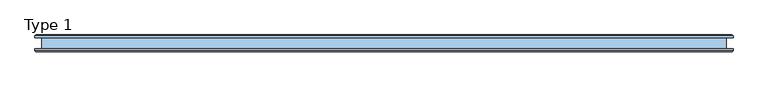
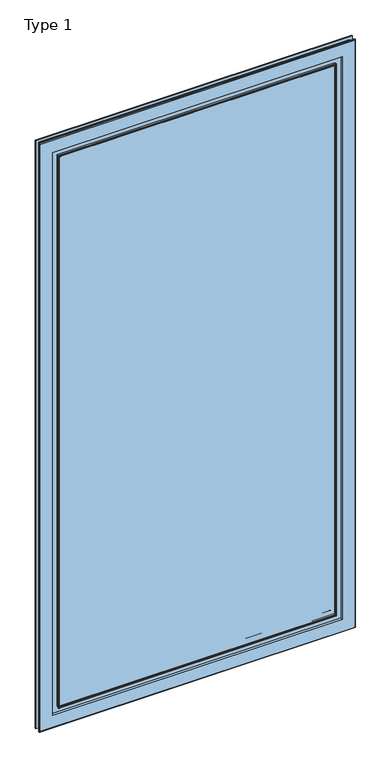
"""IFC4 building model written with IfcOpenShell, lengths in millimetres: window geometry, ETEM_E50_Quadruple_Fly Screen_Lift_Sliding : Type 1."""

import ifcopenshell
import ifcopenshell.guid

model = None  # the IFC model being written
_history = None  # IfcOwnerHistory: only IFC2X3 demands one
_inside = {}  # id of a spatial element -> (the spatial element, [elements in it])
_under = {}  # id of a project, library or spatial element -> (it, [spatial elements below it])
_declared = {}  # id of a project -> (the project, [libraries it declares])
_typed = {}  # id of a type object -> (the type object, [elements of that type])
_made_of = {}  # id of a material, layer set ... -> (it, [elements and type objects made of it])


def new_model(schema):
    """Start an empty IFC model of exactly this schema.

    Asked for "IFC4X3", IfcOpenShell would pick the latest addendum, in which some entities
    have other attributes; the version numbers below select the first issue.
    IFC2X3 requires an IfcOwnerHistory on every rooted entity: one is made here for all.
    """
    global model, _history
    if schema == "IFC4X3":
        model = ifcopenshell.file(schema_version=(4, 3, 0, 0))
    else:
        model = ifcopenshell.file(schema=schema)
    _inside.clear()
    _under.clear()
    _declared.clear()
    _typed.clear()
    _made_of.clear()
    _history = None
    if model.schema == "IFC2X3":
        org = make("IfcOrganization", Name="unknown")
        user = make(
            "IfcPersonAndOrganization",
            ThePerson=make("IfcPerson", FamilyName="unknown"),
            TheOrganization=org,
        )
        app = make(
            "IfcApplication",
            ApplicationDeveloper=org,
            Version="unknown",
            ApplicationFullName="unknown",
            ApplicationIdentifier="unknown",
        )
        _history = make(
            "IfcOwnerHistory",
            OwningUser=user,
            OwningApplication=app,
            ChangeAction="ADDED",
            CreationDate=0,
        )
    return model


def make(cls, **values):
    """One entity of the class cls with the attributes given. An attribute that is None is left unset."""
    return model.create_entity(
        cls, **{name: value for name, value in values.items() if value is not None}
    )


def rooted(cls, **values):
    """An entity with a GlobalId (a new one), such as an element, a storey or a relation."""
    return make(cls, GlobalId=ifcopenshell.guid.new(), OwnerHistory=_history, **values)


def si_unit(unit_type, name, prefix=None):
    """IfcSIUnit, for example si_unit("LENGTHUNIT", "METRE", prefix="MILLI")."""
    return make("IfcSIUnit", UnitType=unit_type, Prefix=prefix, Name=name)


def assignment(units):
    """IfcUnitAssignment: the units of a project."""
    return None if units is None else make("IfcUnitAssignment", Units=units)


def point(xyz):
    """IfcCartesianPoint."""
    return None if xyz is None else make("IfcCartesianPoint", Coordinates=xyz)


def direction(xyz):
    """IfcDirection."""
    return None if xyz is None else make("IfcDirection", DirectionRatios=xyz)


def frame(location, z_axis=None, x_axis=None):
    """IfcAxis2Placement3D, a coordinate frame: its origin and axes. An axis left out is left unset."""
    return make(
        "IfcAxis2Placement3D",
        Location=point(location),
        Axis=direction(z_axis),
        RefDirection=direction(x_axis),
    )


def origin():
    """The frame at (0, 0, 0) with its axes left unset."""
    return frame((0.0, 0.0, 0.0))


def place(relative_to, where):
    """IfcLocalPlacement: puts the frame where relative to a parent placement (None: the world)."""
    return make(
        "IfcLocalPlacement", PlacementRelTo=relative_to, RelativePlacement=where
    )


def context(
    kind, dimensions, precision=None, world=None, true_north=None, identifier=None
):
    """IfcGeometricRepresentationContext, for example the 3D "Model" context."""
    return make(
        "IfcGeometricRepresentationContext",
        ContextIdentifier=identifier,
        ContextType=kind,
        CoordinateSpaceDimension=dimensions,
        Precision=precision,
        WorldCoordinateSystem=world,
        TrueNorth=true_north,
    )


def project(units=None, contexts=None):
    """IfcProject with its units and contexts."""
    return rooted(
        "IfcProject",
        Name="project",
        RepresentationContexts=contexts,
        UnitsInContext=assignment(units),
    )


def spatial(cls, under=None, at=None, **own):
    """A site, building, storey or space (cls), placed at a placement, below another one or the project."""
    s = rooted(cls, ObjectPlacement=at, **own)
    if under is not None:
        _under.setdefault(under.id(), (under, []))[1].append(s)
    return s


def polyline(points):
    """IfcPolyline through the points."""
    return make("IfcPolyline", Points=[point(p) for p in points])


def ellipse_curve(where, semi_axis1, semi_axis2):
    """IfcEllipse in the frame where."""
    return make(
        "IfcEllipse", Position=where, SemiAxis1=semi_axis1, SemiAxis2=semi_axis2
    )


def outline(outer, holes=None, kind="AREA"):
    """IfcArbitraryClosedProfileDef: a profile drawn as a closed curve; with holes, ...WithVoids."""
    if holes is None:
        return make("IfcArbitraryClosedProfileDef", ProfileType=kind, OuterCurve=outer)
    return make(
        "IfcArbitraryProfileDefWithVoids",
        ProfileType=kind,
        OuterCurve=outer,
        InnerCurves=holes,
    )


def extrude(swept, where, along, depth):
    """IfcExtrudedAreaSolid: the profile swept, set in the frame where, extruded along a direction by depth."""
    return make(
        "IfcExtrudedAreaSolid",
        SweptArea=swept,
        Position=where,
        ExtrudedDirection=direction(along),
        Depth=depth,
    )


def shape(context_of_items, identifier, shape_type, items):
    """IfcShapeRepresentation: the items that make up one representation, for example the "Body"."""
    return make(
        "IfcShapeRepresentation",
        ContextOfItems=context_of_items,
        RepresentationIdentifier=identifier,
        RepresentationType=shape_type,
        Items=items,
    )


def source(mapping_origin, context_of_items, identifier, shape_type, items):
    """IfcRepresentationMap: a shape defined once, which mapped items show again and again."""
    return make(
        "IfcRepresentationMap",
        MappingOrigin=mapping_origin,
        MappedRepresentation=shape(context_of_items, identifier, shape_type, items),
    )


def transform(
    local_origin,
    x_axis=None,
    y_axis=None,
    z_axis=None,
    scale=None,
    scale2=None,
    scale3=None,
    uniform=True,
):
    """IfcCartesianTransformationOperator3D, or its non-uniform kind. x_axis, y_axis, z_axis: its Axis1, 2, 3."""
    if uniform:
        return make(
            "IfcCartesianTransformationOperator3D",
            Axis1=direction(x_axis),
            Axis2=direction(y_axis),
            LocalOrigin=point(local_origin),
            Scale=scale,
            Axis3=direction(z_axis),
        )
    return make(
        "IfcCartesianTransformationOperator3DnonUniform",
        Axis1=direction(x_axis),
        Axis2=direction(y_axis),
        LocalOrigin=point(local_origin),
        Scale=scale,
        Axis3=direction(z_axis),
        Scale2=scale2,
        Scale3=scale3,
    )


def mapped(mapping_source, mapping_target):
    """IfcMappedItem: shows the shape of a source again, moved by a transform."""
    return make(
        "IfcMappedItem", MappingSource=mapping_source, MappingTarget=mapping_target
    )


def made_of(thing, what):
    """Note that an element or type object is made of a material, layer set ...; save() writes the relation."""
    if what is not None:
        _made_of.setdefault(what.id(), (what, []))[1].append(thing)
    return thing


def element(
    cls,
    number,
    at=None,
    inside=None,
    cuts=None,
    type_object=None,
    material=None,
    context=None,
    identifier="Body",
    shape_type=None,
    held_by="IfcProductDefinitionShape",
    body=None,
    shapes=None,
    **own,
):
    """One element of the class cls, such as IfcWall. Its Tag is "e" and its number.

    at: its placement. inside: the storey or other place that contains it. cuts: it is an
    opening in that element (IfcRelVoidsElement). A single representation is given by context,
    identifier, shape_type and body (its items); several are given by shapes. held_by: the class
    of the entity that holds the representations. save() writes the other relations.
    """
    e = rooted(cls, Tag="e%d" % number, ObjectPlacement=at, **own)
    if body is not None:
        shapes = [shape(context, identifier, shape_type, body)]
    if shapes is not None:
        e.Representation = make(held_by, Representations=shapes)
    if inside is not None:
        _inside.setdefault(inside.id(), (inside, []))[1].append(e)
    if cuts is not None:
        rooted(
            "IfcRelVoidsElement", RelatingBuildingElement=cuts, RelatedOpeningElement=e
        )
    if type_object is not None:
        _typed.setdefault(type_object.id(), (type_object, []))[1].append(e)
    return made_of(e, material)


def aggregate(whole, parts):
    """IfcRelAggregates: a whole, such as a stair, and the parts it consists of."""
    return rooted("IfcRelAggregates", RelatingObject=whole, RelatedObjects=parts)


def save(model, path):
    """Write the relations noted so far, then the file.

    IfcRelAggregates (storeys below a building ...), IfcRelContainedInSpatialStructure (elements
    in a storey), IfcRelDefinesByType, IfcRelAssociatesMaterial and IfcRelDeclares: one each for
    every whole, place, type object, material and project.
    """
    for whole, parts in _under.values():
        aggregate(whole, parts)
    for where, things in _inside.values():
        rooted(
            "IfcRelContainedInSpatialStructure",
            RelatedElements=things,
            RelatingStructure=where,
        )
    for kind, things in _typed.values():
        rooted("IfcRelDefinesByType", RelatedObjects=things, RelatingType=kind)
    for what, things in _made_of.values():
        rooted("IfcRelAssociatesMaterial", RelatedObjects=things, RelatingMaterial=what)
    for by, libraries in _declared.values():
        rooted("IfcRelDeclares", RelatingContext=by, RelatedDefinitions=libraries)
    model.write(path)


def plane_surface(at):
    """IfcPlane: the flat surface through the origin of the frame at, square to its z axis."""
    return make("IfcPlane", Position=at)


def cylinder_surface(at, radius):
    """IfcCylindricalSurface: all points at the distance radius from the z axis of the frame at."""
    return make("IfcCylindricalSurface", Position=at, Radius=radius)


def revolved_surface(curve, axis_point, axis_direction):
    """IfcSurfaceOfRevolution: the curve turned about the line through axis_point along axis_direction."""
    return make(
        "IfcSurfaceOfRevolution",
        SweptCurve=make("IfcArbitraryOpenProfileDef", ProfileType="CURVE", Curve=curve),
        AxisPosition=make("IfcAxis1Placement", Location=point(axis_point), Axis=direction(axis_direction)),
    )


def advanced_brep(points, edges, surfaces, faces):
    """IfcAdvancedBrep: a solid bounded by faces that lie on surfaces and meet in shared edges.

    An edge is (start, end): straight between two places in points (the first is 0);
    or (start, end, curve); or (start, end, curve, False) where it runs against its curve.
    A face is (place in surfaces, loops), or (place, loops, False) where it looks against
    its surface's normal. A loop lists edges by number (the first is 1), with a minus sign
    where the edge is run from its end to its start. The first loop is the outer one.
    """
    corners = [point(p) for p in points]
    vertices = [make("IfcVertexPoint", VertexGeometry=c) for c in corners]
    made = []
    for start, end, *more in edges:
        made.append(
            make(
                "IfcEdgeCurve",
                EdgeStart=vertices[start],
                EdgeEnd=vertices[end],
                EdgeGeometry=more[0] if more else make("IfcPolyline", Points=[corners[start], corners[end]]),
                SameSense=more[1] if len(more) > 1 else True,
            )
        )
    hull = []
    for where, loops, *sense in faces:
        bounds = []
        for j, loop in enumerate(loops):
            ring = [make("IfcOrientedEdge", EdgeElement=made[abs(k) - 1], Orientation=k > 0) for k in loop]
            bounds.append(
                make(
                    "IfcFaceOuterBound" if j == 0 else "IfcFaceBound",
                    Bound=make("IfcEdgeLoop", EdgeList=ring),
                    Orientation=True,
                )
            )
        hull.append(make("IfcAdvancedFace", Bounds=bounds, FaceSurface=surfaces[where], SameSense=sense[0] if sense else True))
    return make("IfcAdvancedBrep", Outer=make("IfcClosedShell", CfsFaces=hull))


def type_1_fd5323af(model_context):
    return source(origin(), model_context, "Body", "SolidModel", [
        advanced_brep(
        [(1148.6, 74.8, 2092.9), (1148.6, 71.8, 2092.9), (1148.6, 71.8, 107.1), (1148.6, 74.8, 107.1), (1146.8, 71.8, 105.3), (2094.699965, 71.8, 105.3), (2094.699965, 71.8, 2094.7), (1146.8, 71.8, 2094.7), (2092.899965, 71.8, 2092.9), (2092.899965, 71.8, 107.1), (2092.899965, 74.8, 107.1), (2092.899965, 74.8, 2092.9), (1156.0, 74.8, 2085.5), (2085.499965, 74.8, 2085.5), (2085.499965, 74.8, 114.5), (1156.0, 74.8, 114.5), (1146.8543214, 72.9975359, 2094.6456786), (1146.8543214, 72.9975359, 105.3543214), (1147.4, 73.5, 2094.1), (1147.4, 73.5, 105.9), (2094.6456436, 72.9975359, 105.3543214), (1147.4, 80.1, 2094.1), (1147.4, 80.1, 105.9), (2094.099965, 73.5, 105.9), (1127.2, 80.1, 85.7), (2114.299965, 80.1, 85.7), (2114.299965, 80.1, 2114.3), (1127.2, 80.1, 2114.3), (2094.099965, 80.1, 2094.1), (2094.099965, 80.1, 105.9), (1127.2, 71.8, 2114.3), (1127.2, 71.8, 85.7), (1084.0, 71.8, 42.5), (2157.499965, 71.8, 42.5), (2157.499965, 71.8, 2157.5), (1084.0, 71.8, 2157.5), (2114.299965, 71.8, 2114.3), (2114.299965, 71.8, 85.7), (1081.0, 73.1542487, 2160.5), (1081.0, 73.1542487, 39.5), (1081.0, 76.3, 2160.5), (1081.0, 76.3, 39.5), (2160.499965, 73.1542487, 39.5), (2160.499965, 76.3, 2160.5), (2160.499965, 76.3, 39.5), (1091.3, 76.3, 49.8), (2150.199965, 76.3, 49.8), (2150.199965, 76.3, 2150.2), (1091.3, 76.3, 2150.2), (1091.3, 93.3, 2150.2), (1091.3, 93.3, 49.8), (1081.0, 93.3, 39.5), (2160.499965, 93.3, 39.5), (2160.499965, 93.3, 2160.5), (1081.0, 93.3, 2160.5), (2150.199965, 93.3, 2150.2), (2150.199965, 93.3, 49.8), (1081.0, 96.4457513, 2160.5), (1081.0, 96.4457513, 39.5), (1084.0, 97.8, 2157.5), (1084.0, 97.8, 42.5), (2160.499965, 96.4457513, 39.5), (2157.499965, 97.8, 2157.5), (2157.499965, 97.8, 42.5), (1127.2, 97.8, 85.7), (2114.299965, 97.8, 85.7), (2114.299965, 97.8, 2114.3), (1127.2, 97.8, 2114.3), (1127.2, 89.5, 2114.3), (1127.2, 89.5, 85.7), (2114.299965, 89.5, 2114.3), (2114.299965, 89.5, 85.7), (1153.6, 89.5, 112.1), (2087.899965, 89.5, 112.1), (2087.899965, 89.5, 2087.9), (1153.6, 89.5, 2087.9), (1154.8, 90.7, 2086.7), (1154.8, 90.7, 113.3), (1154.8, 93.8, 2086.7), (1154.8, 93.8, 113.3), (2086.699965, 90.7, 113.3), (1152.4941176, 96.5560566, 2089.0058824), (1152.4941176, 96.5560566, 110.9941176), (2086.699965, 93.8, 113.3), (1152.7058823, 97.7372237, 2088.7941177), (1152.7058823, 97.7372237, 111.2058823), (2089.0058474, 96.5560566, 110.9941176), (1156.0, 93.8, 2085.5), (1156.0, 93.8, 114.5), (2088.7940826, 97.7372237, 111.2058823), (2085.499965, 93.8, 114.5), (2094.6456436, 72.9975359, 2094.6456786), (2094.099965, 73.5, 2094.1), (2160.499965, 73.1542487, 2160.5), (2160.499965, 96.4457513, 2160.5), (2086.699965, 90.7, 2086.7), (2086.699965, 93.8, 2086.7), (2089.0058474, 96.5560566, 2089.0058824), (2088.7940826, 97.7372237, 2088.7941177), (2085.499965, 93.8, 2085.5)],
        [
            (0, 1),
            (1, 2),
            (2, 3),
            (3, 0),
            (4, 5),
            (5, 6),
            (6, 7),
            (7, 4),
            (1, 8),
            (8, 9),
            (9, 2),
            (9, 10),
            (10, 3),
            (10, 11),
            (11, 0),
            (12, 13),
            (13, 14),
            (14, 15),
            (15, 12),
            (7, 16, ellipse_curve(frame((1146.8, 72.4, 2094.7), z_axis=(-0.7071067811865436, 0.0, -0.7071067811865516), x_axis=(-0.7071067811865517, 0.0, 0.7071067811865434)), 0.8485281, 0.6)),
            (16, 17),
            (17, 4, ellipse_curve(frame((1146.8, 72.4, 105.3), z_axis=(-0.7071067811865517, 0.0, 0.7071067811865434), x_axis=(0.7071067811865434, 0.0, 0.7071067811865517)), 0.8485281, 0.6)),
            (16, 18, ellipse_curve(frame((1146.9, 73.5, 2094.6), z_axis=(0.7071067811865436, 0.0, 0.7071067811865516), x_axis=(0.7071067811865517, 0.0, -0.7071067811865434)), 0.7071068, 0.5)),
            (18, 19),
            (19, 17, ellipse_curve(frame((1146.9, 73.5, 105.4), z_axis=(0.7071067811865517, 0.0, -0.7071067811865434), x_axis=(-0.7071067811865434, 0.0, -0.7071067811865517)), 0.7071068, 0.5)),
            (17, 20),
            (20, 5, ellipse_curve(frame((2094.699965, 72.4, 105.3), z_axis=(-0.7071067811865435, 0.0, -0.7071067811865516), x_axis=(-0.7071067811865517, 0.0, 0.7071067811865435)), 0.8485281, 0.6)),
            (18, 21),
            (21, 22),
            (22, 19),
            (19, 23),
            (23, 20, ellipse_curve(frame((2094.599965, 73.5, 105.4), z_axis=(0.7071067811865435, 0.0, 0.7071067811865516), x_axis=(0.7071067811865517, 0.0, -0.7071067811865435)), 0.7071068, 0.5)),
            (24, 25),
            (25, 26),
            (26, 27),
            (27, 24),
            (21, 28),
            (28, 29),
            (29, 22),
            (29, 23),
            (27, 30),
            (30, 31),
            (31, 24),
            (32, 33),
            (33, 34),
            (34, 35),
            (35, 32),
            (30, 36),
            (36, 37),
            (37, 31),
            (37, 25),
            (35, 38, ellipse_curve(frame((1084.0, 75.8, 2157.5), z_axis=(-0.7071067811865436, 0.0, -0.7071067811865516), x_axis=(-0.7071067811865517, 0.0, 0.7071067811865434)), 5.6568542, 4.0)),
            (38, 39),
            (39, 32, ellipse_curve(frame((1084.0, 75.8, 42.5), z_axis=(-0.7071067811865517, 0.0, 0.7071067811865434), x_axis=(0.7071067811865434, 0.0, 0.7071067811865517)), 5.6568542, 4.0)),
            (38, 40),
            (40, 41),
            (41, 39),
            (39, 42),
            (42, 33, ellipse_curve(frame((2157.499965, 75.8, 42.5), z_axis=(-0.7071067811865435, 0.0, -0.7071067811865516), x_axis=(-0.7071067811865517, 0.0, 0.7071067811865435)), 5.6568542, 4.0)),
            (40, 43),
            (43, 44),
            (44, 41),
            (45, 46),
            (46, 47),
            (47, 48),
            (48, 45),
            (44, 42),
            (48, 49),
            (49, 50),
            (50, 45),
            (51, 52),
            (52, 53),
            (53, 54),
            (54, 51),
            (49, 55),
            (55, 56),
            (56, 50),
            (56, 46),
            (54, 57),
            (57, 58),
            (58, 51),
            (57, 59, ellipse_curve(frame((1084.0, 93.8, 2157.5), z_axis=(-0.7071067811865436, 0.0, -0.7071067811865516), x_axis=(-0.7071067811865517, 0.0, 0.7071067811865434)), 5.6568542, 4.0)),
            (59, 60),
            (60, 58, ellipse_curve(frame((1084.0, 93.8, 42.5), z_axis=(-0.7071067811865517, 0.0, 0.7071067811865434), x_axis=(0.7071067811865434, 0.0, 0.7071067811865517)), 5.6568542, 4.0)),
            (58, 61),
            (61, 52),
            (59, 62),
            (62, 63),
            (63, 60),
            (64, 65),
            (65, 66),
            (66, 67),
            (67, 64),
            (63, 61, ellipse_curve(frame((2157.499965, 93.8, 42.5), z_axis=(-0.7071067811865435, 0.0, -0.7071067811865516), x_axis=(-0.7071067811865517, 0.0, 0.7071067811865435)), 5.6568542, 4.0)),
            (67, 68),
            (68, 69),
            (69, 64),
            (68, 70),
            (70, 71),
            (71, 69),
            (72, 73),
            (73, 74),
            (74, 75),
            (75, 72),
            (71, 65),
            (75, 76, ellipse_curve(frame((1153.6, 90.7, 2087.9), z_axis=(0.7071067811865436, 0.0, 0.7071067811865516), x_axis=(0.7071067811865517, 0.0, -0.7071067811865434)), 1.6970563, 1.2)),
            (76, 77),
            (77, 72, ellipse_curve(frame((1153.6, 90.7, 112.1), z_axis=(0.7071067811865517, 0.0, -0.7071067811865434), x_axis=(-0.7071067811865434, 0.0, -0.7071067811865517)), 1.6970563, 1.2)),
            (76, 78),
            (78, 79),
            (79, 77),
            (77, 80),
            (80, 73, ellipse_curve(frame((2087.899965, 90.7, 112.1), z_axis=(0.7071067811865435, 0.0, 0.7071067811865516), x_axis=(0.7071067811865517, 0.0, -0.7071067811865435)), 1.6970563, 1.2)),
            (78, 81, ellipse_curve(frame((1152.0, 93.8, 2089.5), z_axis=(0.7071067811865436, 0.0, 0.7071067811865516), x_axis=(0.7071067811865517, 0.0, -0.7071067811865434)), 3.959798, 2.8)),
            (81, 82),
            (82, 79, ellipse_curve(frame((1152.0, 93.8, 110.5), z_axis=(0.7071067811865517, 0.0, -0.7071067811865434), x_axis=(-0.7071067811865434, 0.0, -0.7071067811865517)), 3.959798, 2.8)),
            (79, 83),
            (83, 80),
            (81, 84, ellipse_curve(frame((1152.6, 97.1466401, 2088.9), z_axis=(-0.7071067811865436, 0.0, -0.7071067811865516), x_axis=(-0.7071067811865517, 0.0, 0.7071067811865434)), 0.8485281, 0.6)),
            (84, 85),
            (85, 82, ellipse_curve(frame((1152.6, 97.1466401, 111.1), z_axis=(-0.7071067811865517, 0.0, 0.7071067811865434), x_axis=(0.7071067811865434, 0.0, 0.7071067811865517)), 0.8485281, 0.6)),
            (82, 86),
            (86, 83, ellipse_curve(frame((2089.499965, 93.8, 110.5), z_axis=(0.7071067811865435, 0.0, 0.7071067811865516), x_axis=(0.7071067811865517, 0.0, -0.7071067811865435)), 3.959798, 2.8)),
            (84, 87, ellipse_curve(frame((1152.0, 93.8, 2089.5), z_axis=(-0.7071067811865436, 0.0, -0.7071067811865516), x_axis=(-0.7071067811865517, 0.0, 0.7071067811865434)), 5.6568542, 4.0)),
            (87, 88),
            (88, 85, ellipse_curve(frame((1152.0, 93.8, 110.5), z_axis=(-0.7071067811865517, 0.0, 0.7071067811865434), x_axis=(0.7071067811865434, 0.0, 0.7071067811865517)), 5.6568542, 4.0)),
            (85, 89),
            (89, 86, ellipse_curve(frame((2088.899965, 97.1466401, 111.1), z_axis=(-0.7071067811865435, 0.0, -0.7071067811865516), x_axis=(-0.7071067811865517, 0.0, 0.7071067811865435)), 0.8485281, 0.6)),
            (87, 12),
            (15, 88),
            (88, 90),
            (90, 89, ellipse_curve(frame((2089.499965, 93.8, 110.5), z_axis=(-0.7071067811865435, 0.0, -0.7071067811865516), x_axis=(-0.7071067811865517, 0.0, 0.7071067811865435)), 5.6568542, 4.0)),
            (14, 90),
            (8, 11),
            (20, 91),
            (91, 6, ellipse_curve(frame((2094.699965, 72.4, 2094.7), z_axis=(0.7071067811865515, 0.0, -0.7071067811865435), x_axis=(-0.7071067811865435, 0.0, -0.7071067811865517)), 0.8485281, 0.6)),
            (23, 92),
            (92, 91, ellipse_curve(frame((2094.599965, 73.5, 2094.6), z_axis=(-0.7071067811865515, 0.0, 0.7071067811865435), x_axis=(0.7071067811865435, 0.0, 0.7071067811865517)), 0.7071068, 0.5)),
            (28, 92),
            (36, 26),
            (42, 93),
            (93, 34, ellipse_curve(frame((2157.499965, 75.8, 2157.5), z_axis=(0.7071067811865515, 0.0, -0.7071067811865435), x_axis=(-0.7071067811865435, 0.0, -0.7071067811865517)), 5.6568542, 4.0)),
            (43, 93),
            (55, 47),
            (61, 94),
            (94, 53),
            (62, 94, ellipse_curve(frame((2157.499965, 93.8, 2157.5), z_axis=(0.7071067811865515, 0.0, -0.7071067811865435), x_axis=(-0.7071067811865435, 0.0, -0.7071067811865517)), 5.6568542, 4.0)),
            (70, 66),
            (80, 95),
            (95, 74, ellipse_curve(frame((2087.899965, 90.7, 2087.9), z_axis=(-0.7071067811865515, 0.0, 0.7071067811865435), x_axis=(0.7071067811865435, 0.0, 0.7071067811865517)), 1.6970563, 1.2)),
            (83, 96),
            (96, 95),
            (86, 97),
            (97, 96, ellipse_curve(frame((2089.499965, 93.8, 2089.5), z_axis=(-0.7071067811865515, 0.0, 0.7071067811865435), x_axis=(0.7071067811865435, 0.0, 0.7071067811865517)), 3.959798, 2.8)),
            (89, 98),
            (98, 97, ellipse_curve(frame((2088.899965, 97.1466401, 2088.9), z_axis=(0.7071067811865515, 0.0, -0.7071067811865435), x_axis=(-0.7071067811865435, 0.0, -0.7071067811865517)), 0.8485281, 0.6)),
            (90, 99),
            (99, 98, ellipse_curve(frame((2089.499965, 93.8, 2089.5), z_axis=(0.7071067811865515, 0.0, -0.7071067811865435), x_axis=(-0.7071067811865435, 0.0, -0.7071067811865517)), 5.6568542, 4.0)),
            (13, 99),
            (91, 16),
            (92, 18),
            (93, 38),
            (94, 57),
            (95, 76),
            (96, 78),
            (97, 81),
            (98, 84),
            (99, 87),
        ],
        [
            plane_surface(frame((1148.6, 71.8, 2092.9), z_axis=(1.0, 0.0, 0.0), x_axis=(0.0, 0.0, -1.0))),
            plane_surface(frame((2094.699965, 71.8, 2094.7), z_axis=(0.0, -1.0, 0.0), x_axis=(-1.0, 0.0, 0.0))),
            plane_surface(frame((1148.6, 71.8, 107.1), z_axis=(0.0, 0.0, 1.0), x_axis=(1.0, 0.0, 0.0))),
            plane_surface(frame((2092.899965, 74.8, 2092.9), z_axis=(0.0, -1.0, 0.0), x_axis=(-1.0, 0.0, 0.0))),
            cylinder_surface(frame((1146.8, 72.4, 2160.5), z_axis=(0.0, 0.0, 1.0), x_axis=(-1.0, 0.0, 0.0)), 0.6),
            revolved_surface(polyline([(1146.4, 73.5, 104.89999998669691), (1146.4, 73.5, 2095.100000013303)]), (1146.9, 73.5, 2160.5), (0.0, 0.0, -1.0)),
            cylinder_surface(frame((1081.0, 72.4, 105.3), z_axis=(-1.0, 0.0, 0.0), x_axis=(0.0, 0.0, -1.0)), 0.6),
            plane_surface(frame((1147.4, 80.1, 2094.1), z_axis=(-1.0, 0.0, 0.0), x_axis=(0.0, 0.0, -1.0))),
            revolved_surface(polyline([(2095.099965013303, 73.5, 104.9), (1146.399999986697, 73.5, 104.9)]), (1081.0, 73.5, 105.4), (1.0, 0.0, 0.0)),
            plane_surface(frame((2114.299965, 80.1, 2114.3), z_axis=(0.0, -1.0, 0.0), x_axis=(-1.0, 0.0, 0.0))),
            plane_surface(frame((1147.4, 80.1, 105.9), z_axis=(0.0, 0.0, -1.0), x_axis=(1.0, 0.0, 0.0))),
            plane_surface(frame((1127.2, 71.8, 2114.3), z_axis=(1.0, 0.0, 0.0), x_axis=(0.0, 0.0, -1.0))),
            plane_surface(frame((2157.499965, 71.8, 2157.5), z_axis=(0.0, -1.0, 0.0), x_axis=(-1.0, 0.0, 0.0))),
            plane_surface(frame((1127.2, 71.8, 85.7), z_axis=(0.0, 0.0, 1.0), x_axis=(1.0, 0.0, 0.0))),
            cylinder_surface(frame((1084.0, 75.8, 2160.5), z_axis=(0.0, 0.0, 1.0), x_axis=(-1.0, 0.0, 0.0)), 4.0),
            plane_surface(frame((1081.0, 76.3, 2160.5), z_axis=(-1.0, 0.0, 0.0), x_axis=(0.0, 0.0, -1.0))),
            cylinder_surface(frame((1081.0, 75.8, 42.5), z_axis=(-1.0, 0.0, 0.0), x_axis=(0.0, 0.0, -1.0)), 4.0),
            plane_surface(frame((2150.199965, 76.3, 2150.2), z_axis=(0.0, 1.0, 0.0), x_axis=(-1.0, 0.0, 0.0))),
            plane_surface(frame((1081.0, 76.3, 39.5), z_axis=(0.0, 0.0, -1.0), x_axis=(1.0, 0.0, 0.0))),
            plane_surface(frame((1091.3, 93.3, 2150.2), z_axis=(-1.0, 0.0, 0.0), x_axis=(0.0, 0.0, -1.0))),
            plane_surface(frame((2160.499965, 93.3, 2160.5), z_axis=(0.0, -1.0, 0.0), x_axis=(-1.0, 0.0, 0.0))),
            plane_surface(frame((1091.3, 93.3, 49.8), z_axis=(0.0, 0.0, -1.0), x_axis=(1.0, 0.0, 0.0))),
            plane_surface(frame((1081.0, 96.4457513, 2160.5), z_axis=(-1.0, 0.0, 0.0), x_axis=(0.0, 0.0, -1.0))),
            cylinder_surface(frame((1084.0, 93.8, 2160.5), z_axis=(0.0, 0.0, 1.0), x_axis=(-1.0, 0.0, 0.0)), 4.0),
            plane_surface(frame((1081.0, 96.4457513, 39.5), z_axis=(0.0, 0.0, -1.0), x_axis=(1.0, 0.0, 0.0))),
            plane_surface(frame((2114.299965, 97.8, 2114.3), z_axis=(0.0, 1.0, 0.0), x_axis=(-1.0, 0.0, 0.0))),
            cylinder_surface(frame((1081.0, 93.8, 42.5), z_axis=(-1.0, 0.0, 0.0), x_axis=(0.0, 0.0, -1.0)), 4.0),
            plane_surface(frame((1127.2, 89.5, 2114.3), z_axis=(1.0, 0.0, 0.0), x_axis=(0.0, 0.0, -1.0))),
            plane_surface(frame((2087.899965, 89.5, 2087.9), z_axis=(0.0, 1.0, 0.0), x_axis=(-1.0, 0.0, 0.0))),
            plane_surface(frame((1127.2, 89.5, 85.7), z_axis=(0.0, 0.0, 1.0), x_axis=(1.0, 0.0, 0.0))),
            revolved_surface(polyline([(1152.3999999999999, 90.7, 110.89999998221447), (1152.3999999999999, 90.7, 2089.1000000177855)]), (1153.6, 90.7, 2160.5), (0.0, 0.0, -1.0)),
            plane_surface(frame((1154.8, 93.8, 2086.7), z_axis=(-1.0, 0.0, 0.0), x_axis=(0.0, 0.0, -1.0))),
            revolved_surface(polyline([(2089.0999650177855, 90.7, 110.89999999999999), (1152.3999999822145, 90.7, 110.89999999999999)]), (1081.0, 90.7, 112.1), (1.0, 0.0, 0.0)),
            revolved_surface(polyline([(1149.2, 93.8, 107.69999998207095), (1149.2, 93.8, 2092.300000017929)]), (1152.0, 93.8, 2160.5), (0.0, 0.0, -1.0)),
            plane_surface(frame((1154.8, 93.8, 113.3), z_axis=(0.0, 0.0, -1.0), x_axis=(1.0, 0.0, 0.0))),
            cylinder_surface(frame((1152.6, 97.1466401, 2160.5), z_axis=(0.0, 0.0, 1.0), x_axis=(-1.0, 0.0, 0.0)), 0.6),
            revolved_surface(polyline([(2092.299965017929, 93.8, 107.7), (1149.1999999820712, 93.8, 107.7)]), (1081.0, 93.8, 110.5), (1.0, 0.0, 0.0)),
            cylinder_surface(frame((1152.0, 93.8, 2160.5), z_axis=(0.0, 0.0, 1.0), x_axis=(-1.0, 0.0, 0.0)), 4.0),
            cylinder_surface(frame((1081.0, 97.1466401, 111.1), z_axis=(-1.0, 0.0, 0.0), x_axis=(0.0, 0.0, -1.0)), 0.6),
            plane_surface(frame((1156.0, 74.8, 2085.5), z_axis=(1.0, 0.0, 0.0), x_axis=(0.0, 0.0, -1.0))),
            cylinder_surface(frame((1081.0, 93.8, 110.5), z_axis=(-1.0, 0.0, 0.0), x_axis=(0.0, 0.0, -1.0)), 4.0),
            plane_surface(frame((1156.0, 74.8, 114.5), z_axis=(0.0, 0.0, 1.0), x_axis=(1.0, 0.0, 0.0))),
            plane_surface(frame((2092.899965, 71.8, 107.1), z_axis=(-1.0, 0.0, 0.0), x_axis=(0.0, 0.0, 1.0))),
            cylinder_surface(frame((2094.699965, 72.4, 39.5), z_axis=(0.0, 0.0, -1.0), x_axis=(1.0, 0.0, 0.0)), 0.6),
            revolved_surface(polyline([(2095.099965, 73.5, 2095.100000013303), (2095.099965, 73.5, 104.89999998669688)]), (2094.599965, 73.5, 39.5), (0.0, 0.0, 1.0)),
            plane_surface(frame((2094.099965, 80.1, 105.9), z_axis=(1.0, 0.0, 0.0), x_axis=(0.0, 0.0, 1.0))),
            plane_surface(frame((2114.299965, 71.8, 85.7), z_axis=(-1.0, 0.0, 0.0), x_axis=(0.0, 0.0, 1.0))),
            cylinder_surface(frame((2157.499965, 75.8, 39.5), z_axis=(0.0, 0.0, -1.0), x_axis=(1.0, 0.0, 0.0)), 4.0),
            plane_surface(frame((2160.499965, 76.3, 39.5), z_axis=(1.0, 0.0, 0.0), x_axis=(0.0, 0.0, 1.0))),
            plane_surface(frame((2150.199965, 93.3, 49.8), z_axis=(1.0, 0.0, 0.0), x_axis=(0.0, 0.0, 1.0))),
            plane_surface(frame((2160.499965, 96.4457513, 39.5), z_axis=(1.0, 0.0, 0.0), x_axis=(0.0, 0.0, 1.0))),
            cylinder_surface(frame((2157.499965, 93.8, 39.5), z_axis=(0.0, 0.0, -1.0), x_axis=(1.0, 0.0, 0.0)), 4.0),
            plane_surface(frame((2114.299965, 89.5, 85.7), z_axis=(-1.0, 0.0, 0.0), x_axis=(0.0, 0.0, 1.0))),
            revolved_surface(polyline([(2089.099965, 90.7, 2089.1000000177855), (2089.099965, 90.7, 110.89999998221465)]), (2087.899965, 90.7, 39.5), (0.0, 0.0, 1.0)),
            plane_surface(frame((2086.699965, 93.8, 113.3), z_axis=(1.0, 0.0, 0.0), x_axis=(0.0, 0.0, 1.0))),
            revolved_surface(polyline([(2092.299965, 93.8, 2092.300000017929), (2092.299965, 93.8, 107.69999998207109)]), (2089.499965, 93.8, 39.5), (0.0, 0.0, 1.0)),
            cylinder_surface(frame((2088.899965, 97.1466401, 39.5), z_axis=(0.0, 0.0, -1.0), x_axis=(1.0, 0.0, 0.0)), 0.6),
            cylinder_surface(frame((2089.499965, 93.8, 39.5), z_axis=(0.0, 0.0, -1.0), x_axis=(1.0, 0.0, 0.0)), 4.0),
            plane_surface(frame((2085.499965, 74.8, 114.5), z_axis=(-1.0, 0.0, 0.0), x_axis=(0.0, 0.0, 1.0))),
            plane_surface(frame((2092.899965, 71.8, 2092.9), z_axis=(0.0, 0.0, -1.0), x_axis=(-1.0, 0.0, 0.0))),
            cylinder_surface(frame((2160.499965, 72.4, 2094.7), z_axis=(1.0, 0.0, 0.0), x_axis=(0.0, 0.0, 1.0)), 0.6),
            revolved_surface(polyline([(1146.399999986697, 73.5, 2095.1), (2095.099965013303, 73.5, 2095.1)]), (2160.499965, 73.5, 2094.6), (-1.0, 0.0, 0.0)),
            plane_surface(frame((2094.099965, 80.1, 2094.1), z_axis=(0.0, 0.0, 1.0), x_axis=(-1.0, 0.0, 0.0))),
            plane_surface(frame((2114.299965, 71.8, 2114.3), z_axis=(0.0, 0.0, -1.0), x_axis=(-1.0, 0.0, 0.0))),
            cylinder_surface(frame((2160.499965, 75.8, 2157.5), z_axis=(1.0, 0.0, 0.0), x_axis=(0.0, 0.0, 1.0)), 4.0),
            plane_surface(frame((2160.499965, 76.3, 2160.5), z_axis=(0.0, 0.0, 1.0), x_axis=(-1.0, 0.0, 0.0))),
            plane_surface(frame((2150.199965, 93.3, 2150.2), z_axis=(0.0, 0.0, 1.0), x_axis=(-1.0, 0.0, 0.0))),
            plane_surface(frame((2160.499965, 96.4457513, 2160.5), z_axis=(0.0, 0.0, 1.0), x_axis=(-1.0, 0.0, 0.0))),
            cylinder_surface(frame((2160.499965, 93.8, 2157.5), z_axis=(1.0, 0.0, 0.0), x_axis=(0.0, 0.0, 1.0)), 4.0),
            plane_surface(frame((2114.299965, 89.5, 2114.3), z_axis=(0.0, 0.0, -1.0), x_axis=(-1.0, 0.0, 0.0))),
            revolved_surface(polyline([(1152.3999999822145, 90.7, 2089.1), (2089.0999650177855, 90.7, 2089.1)]), (2160.499965, 90.7, 2087.9), (-1.0, 0.0, 0.0)),
            plane_surface(frame((2086.699965, 93.8, 2086.7), z_axis=(0.0, 0.0, 1.0), x_axis=(-1.0, 0.0, 0.0))),
            revolved_surface(polyline([(1149.199999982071, 93.8, 2092.3), (2092.299965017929, 93.8, 2092.3)]), (2160.499965, 93.8, 2089.5), (-1.0, 0.0, 0.0)),
            cylinder_surface(frame((2160.499965, 97.1466401, 2088.9), z_axis=(1.0, 0.0, 0.0), x_axis=(0.0, 0.0, 1.0)), 0.6),
            cylinder_surface(frame((2160.499965, 93.8, 2089.5), z_axis=(1.0, 0.0, 0.0), x_axis=(0.0, 0.0, 1.0)), 4.0),
            plane_surface(frame((2085.499965, 74.8, 2085.5), z_axis=(0.0, 0.0, -1.0), x_axis=(-1.0, 0.0, 0.0))),
        ],
        [
            (0, [[1, 2, 3, 4]]),
            (1, [[5, 6, 7, 8], [9, 10, 11, -2]]),
            (2, [[-3, -11, 12, 13]]),
            (3, [[-13, 14, 15, -4], [16, 17, 18, 19]]),
            (4, [[20, 21, 22, -8]]),
            (5, [[23, 24, 25, -21]]),
            (6, [[-22, 26, 27, -5]]),
            (7, [[28, 29, 30, -24]]),
            (8, [[-25, 31, 32, -26]]),
            (9, [[33, 34, 35, 36], [37, 38, 39, -29]]),
            (10, [[-30, -39, 40, -31]]),
            (11, [[41, 42, 43, -36]]),
            (12, [[44, 45, 46, 47], [48, 49, 50, -42]]),
            (13, [[-43, -50, 51, -33]]),
            (14, [[52, 53, 54, -47]]),
            (15, [[55, 56, 57, -53]]),
            (16, [[-54, 58, 59, -44]]),
            (17, [[60, 61, 62, -56], [63, 64, 65, 66]]),
            (18, [[-57, -62, 67, -58]]),
            (19, [[68, 69, 70, -66]]),
            (20, [[71, 72, 73, 74], [75, 76, 77, -69]]),
            (21, [[-70, -77, 78, -63]]),
            (22, [[79, 80, 81, -74]]),
            (23, [[82, 83, 84, -80]]),
            (24, [[-81, 85, 86, -71]]),
            (25, [[87, 88, 89, -83], [90, 91, 92, 93]]),
            (26, [[-84, -89, 94, -85]]),
            (27, [[95, 96, 97, -93]]),
            (28, [[98, 99, 100, -96], [101, 102, 103, 104]]),
            (29, [[-97, -100, 105, -90]]),
            (30, [[106, 107, 108, -104]]),
            (31, [[109, 110, 111, -107]]),
            (32, [[-108, 112, 113, -101]]),
            (33, [[114, 115, 116, -110]]),
            (34, [[-111, 117, 118, -112]]),
            (35, [[119, 120, 121, -115]]),
            (36, [[-116, 122, 123, -117]]),
            (37, [[124, 125, 126, -120]]),
            (38, [[-121, 127, 128, -122]]),
            (39, [[129, -19, 130, -125]]),
            (40, [[-126, 131, 132, -127]]),
            (41, [[-130, -18, 133, -131]]),
            (42, [[-12, -10, 134, -14]]),
            (43, [[-27, 135, 136, -6]]),
            (44, [[-32, 137, 138, -135]]),
            (45, [[-40, -38, 139, -137]]),
            (46, [[-51, -49, 140, -34]]),
            (47, [[-59, 141, 142, -45]]),
            (48, [[-67, -61, 143, -141]]),
            (49, [[-78, -76, 144, -64]]),
            (50, [[-86, 145, 146, -72]]),
            (51, [[-94, -88, 147, -145]]),
            (52, [[-105, -99, 148, -91]]),
            (53, [[-113, 149, 150, -102]]),
            (54, [[-118, 151, 152, -149]]),
            (55, [[-123, 153, 154, -151]]),
            (56, [[-128, 155, 156, -153]]),
            (57, [[-132, 157, 158, -155]]),
            (58, [[-133, -17, 159, -157]]),
            (59, [[-134, -9, -1, -15]]),
            (60, [[-136, 160, -20, -7]]),
            (61, [[-138, 161, -23, -160]]),
            (62, [[-139, -37, -28, -161]]),
            (63, [[-140, -48, -41, -35]]),
            (64, [[-142, 162, -52, -46]]),
            (65, [[-143, -60, -55, -162]]),
            (66, [[-144, -75, -68, -65]]),
            (67, [[-146, 163, -79, -73]]),
            (68, [[-147, -87, -82, -163]]),
            (69, [[-148, -98, -95, -92]]),
            (70, [[-150, 164, -106, -103]]),
            (71, [[-152, 165, -109, -164]]),
            (72, [[-154, 166, -114, -165]]),
            (73, [[-156, 167, -119, -166]]),
            (74, [[-158, 168, -124, -167]]),
            (75, [[-159, -16, -129, -168]]),
        ],
    ),
        extrude(outline(polyline([(1152.0, 74.8), (2089.499965, 74.8), (2089.499965, 73.8), (1152.0, 73.8), (1152.0, 74.8)])), frame((0.0, 0.0, 110.5), z_axis=(0.0, 0.0, 1.0), x_axis=(1.0, 0.0, 0.0)), (0.0, 0.0, 1.0), 1979.0),
    ])


if __name__ == "__main__":
    model = new_model("IFC4")
    model_context = context("Model", 3, world=origin())
    ifc_project = project(units=[si_unit("LENGTHUNIT", "METRE", prefix="MILLI")], contexts=[model_context])
    site = spatial("IfcSite", under=ifc_project)
    building = spatial("IfcBuilding", under=site)
    placement = place(None, origin())
    type_1_shape = type_1_fd5323af(model_context)
    element("IfcWindow", 1, ObjectType="ETEM_E50_Quadruple_Fly Screen_Lift_Sliding : Type 1", at=placement, inside=building, context=model_context, shape_type="MappedRepresentation", body=[
        mapped(type_1_shape, transform((0.0, 0.0, 0.0), x_axis=(1.0, 0.0, 0.0), y_axis=(0.0, 1.0, 0.0), z_axis=(0.0, 0.0, 1.0))),
    ])
    save(model, "model.ifc")
